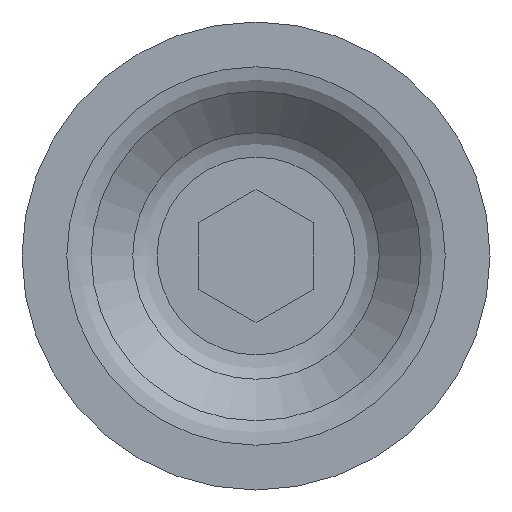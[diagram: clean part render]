
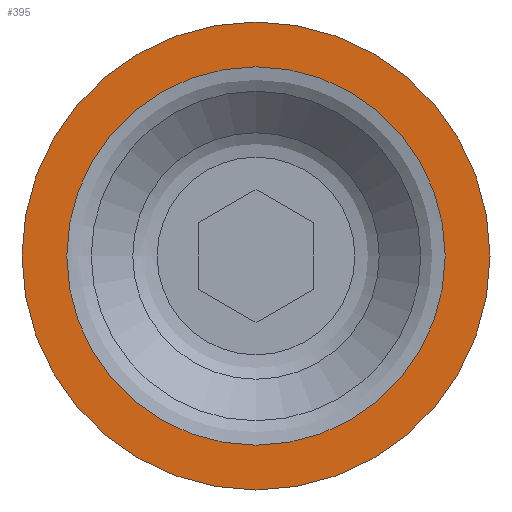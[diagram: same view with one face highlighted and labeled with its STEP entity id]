
A CAD part, front view. The second image highlights one B-rep face of the part: STEP entity #395.
In plain terms, the highlighted planar face has unit normal (0, -1, 0).
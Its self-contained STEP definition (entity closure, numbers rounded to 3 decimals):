
#338=CARTESIAN_POINT('',(-61.936,127.882,0.0));
#339=VERTEX_POINT('',#338);
#346=CARTESIAN_POINT('',(3.064,127.882,0.0));
#347=VERTEX_POINT('',#346);
#348=CARTESIAN_POINT('',(-29.436,127.882,0.0));
#349=DIRECTION('',(0.0,-1.0,0.0));
#350=DIRECTION('',(-1.0,0.0,0.0));
#351=AXIS2_PLACEMENT_3D('',#348,#349,#350);
#352=CIRCLE('',#351,32.5);
#353=EDGE_CURVE('',#347,#339,#352,.T.);
#355=CARTESIAN_POINT('',(-29.436,127.882,0.0));
#356=DIRECTION('',(0.0,-1.0,0.0));
#357=DIRECTION('',(-1.0,0.0,0.0));
#358=AXIS2_PLACEMENT_3D('',#355,#356,#357);
#359=CIRCLE('',#358,32.5);
#360=EDGE_CURVE('',#339,#347,#359,.T.);
#366=CARTESIAN_POINT('',(-94.436,127.882,65.));
#367=DIRECTION('',(0.0,-1.0,0.0));
#368=DIRECTION('',(0.0,0.0,-1.0));
#369=AXIS2_PLACEMENT_3D('',#366,#367,#368);
#370=PLANE('',#369);
#371=ORIENTED_EDGE('',*,*,#360,.T.);
#372=ORIENTED_EDGE('',*,*,#353,.T.);
#373=EDGE_LOOP('',(#371,#372));
#374=FACE_OUTER_BOUND('',#373,.T.);
#375=CARTESIAN_POINT('',(-3.153,127.882,0.0));
#376=VERTEX_POINT('',#375);
#377=CARTESIAN_POINT('',(-55.72,127.882,0.0));
#378=VERTEX_POINT('',#377);
#379=CARTESIAN_POINT('',(-29.436,127.882,0.0));
#380=DIRECTION('',(0.0,-1.0,0.0));
#381=DIRECTION('',(-1.0,0.0,0.0));
#382=AXIS2_PLACEMENT_3D('',#379,#380,#381);
#383=CIRCLE('',#382,26.284);
#384=EDGE_CURVE('',#376,#378,#383,.T.);
#385=ORIENTED_EDGE('',*,*,#384,.F.);
#386=CARTESIAN_POINT('',(-29.436,127.882,0.0));
#387=DIRECTION('',(0.0,-1.0,0.0));
#388=DIRECTION('',(-1.0,0.0,0.0));
#389=AXIS2_PLACEMENT_3D('',#386,#387,#388);
#390=CIRCLE('',#389,26.284);
#391=EDGE_CURVE('',#378,#376,#390,.T.);
#392=ORIENTED_EDGE('',*,*,#391,.F.);
#393=EDGE_LOOP('',(#385,#392));
#394=FACE_BOUND('',#393,.T.);
#395=ADVANCED_FACE('',(#374,#394),#370,.T.);
